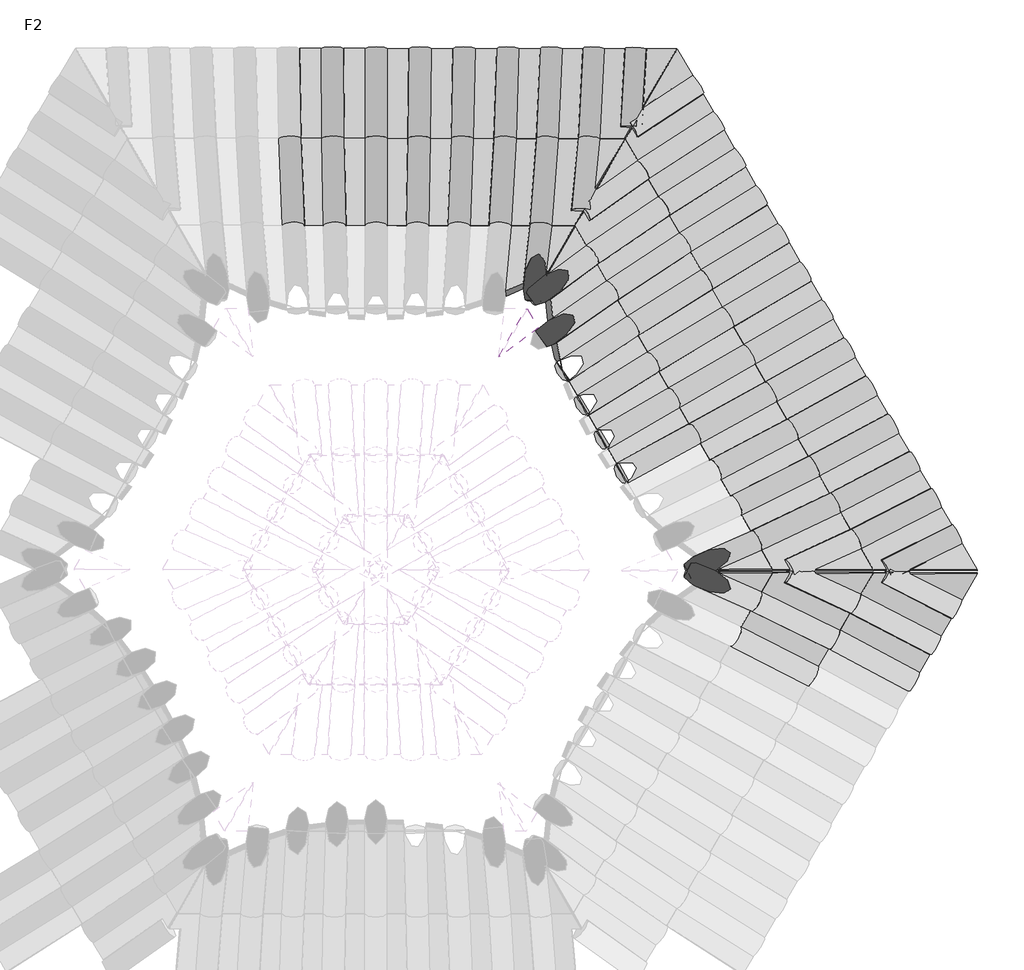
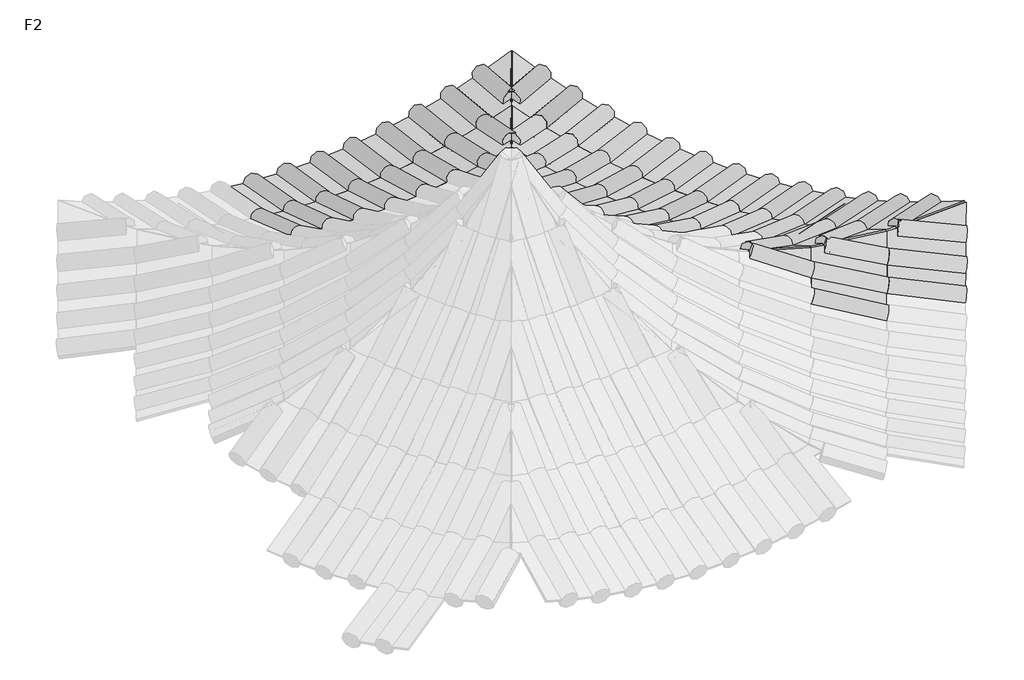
# One storey, part 6 of 6: 60 plates, 55 members.
"""IFC4 building model written with IfcOpenShell, lengths in millimetres."""

from ifc_helpers import new_model, si_unit, origin, place, context, project, spatial, transform, mapped, element, save
from components import member_7626b7be, member_3b22838b, member_1e72f84d, member_02d8162e, member_7e32749a, member_c71233b3, member_f4842659, member_5ab32efa, member_9361b17f, member_fd7b3f03, member_f726278f, member_74f9c3dd, member_f9a0b85f, member_28539939, member_3c0b60bf, plate_0ebb438e, plate_6b57b127, plate_d3f52e52, plate_d213f6b1, plate_9638d80c, plate_89c366d1, plate_aaafe28a, plate_ecf98e0f, plate_823a82dc, plate_c055fcc8, plate_38bc2d65, plate_a3322e93, plate_fe606144, plate_ecea87b7, plate_f94965ac, plate_2cce4260

model = new_model("IFC4")

# Units and contexts
model_context = context("Model", 3, world=origin())
ifc_project = project(units=[si_unit("LENGTHUNIT", "METRE", prefix="MILLI")], contexts=[model_context])

# Site, building, storey
site = spatial("IfcSite", under=ifc_project)
building = spatial("IfcBuilding", under=site)
storey = spatial("IfcBuildingStorey", under=building, Name="F2", Elevation=4000.0)

# Members
placement = place(None, origin())
member_shape = member_7626b7be(model_context)
element("IfcMember", 1, ObjectType="矩形竖梃 : 圆瓦", at=placement, inside=storey, context=model_context, shape_type="MappedRepresentation", body=[
    mapped(member_shape, transform((-10222.0041113, 1297.177642, 4853.1986775), x_axis=(-0.4666304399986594, 0.8097852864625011, -0.3556737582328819), y_axis=(-0.0364801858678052, 0.38417603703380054, 0.9225388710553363), z_axis=(0.8836997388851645, 0.4434597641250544, -0.1497271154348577))),
])
element("IfcMember", 2, ObjectType="矩形竖梃 : 圆瓦", at=placement, inside=storey, context=model_context, shape_type="MappedRepresentation", body=[
    mapped(member_shape, transform((-12993.1701785, 5493.6326513, 4853.1986775), x_axis=(-0.9346098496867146, 0.0007788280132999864, -0.3556737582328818), y_axis=(-0.3509463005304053, 0.1604952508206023, 0.9225388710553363), z_axis=(0.05780244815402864, 0.9870363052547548, -0.14972711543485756))),
])
member_2_shape = member_3b22838b(model_context)
element("IfcMember", 3, ObjectType="矩形竖梃 : 圆瓦", at=placement, inside=storey, context=model_context, shape_type="MappedRepresentation", body=[
    mapped(member_2_shape, transform((-10592.9879052, 29.0524342, 4625.0375895), x_axis=(0.4905424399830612, 0.8377000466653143, 0.24005571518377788), y_axis=(0.026098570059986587, -0.28947683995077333, 0.9568291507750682), z_axis=(0.8710263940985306, -0.46310019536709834, -0.16386344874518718))),
])
element("IfcMember", 4, ObjectType="矩形竖梃 : 圆瓦", at=placement, inside=storey, context=model_context, shape_type="MappedRepresentation", body=[
    mapped(member_2_shape, transform((-11342.8358581, 3242.2566154, 4440.4780088), x_axis=(-0.4992781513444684, 0.8664417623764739, 0.0), y_axis=(0.14625475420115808, 0.08427779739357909, 0.9856504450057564), z_axis=(0.8540087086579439, 0.49211373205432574, -0.16879928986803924))),
])
element("IfcMember", 5, ObjectType="矩形竖梃 : 圆瓦", at=placement, inside=storey, context=model_context, shape_type="MappedRepresentation", body=[
    mapped(member_2_shape, transform((-11533.7055485, 3573.4897576, 4452.0660929), x_axis=(-0.49836149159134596, 0.8648510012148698, 0.06056871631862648), y_axis=(0.17606145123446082, 0.03255158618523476, 0.9838408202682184), z_axis=(0.8489041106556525, 0.5009721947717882, -0.1684893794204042))),
])
element("IfcMember", 6, ObjectType="矩形竖梃 : 圆瓦", at=placement, inside=storey, context=model_context, shape_type="MappedRepresentation", body=[
    mapped(member_2_shape, transform((-11723.8743768, 3903.5066316, 4486.7877946), x_axis=(-0.4956148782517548, 0.8600845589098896, 0.12091502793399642), y_axis=(0.2057586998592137, -0.01898468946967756, 0.9784185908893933), z_axis=(0.8438182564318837, 0.5097981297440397, -0.1675607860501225))),
])
element("IfcMember", 7, ObjectType="矩形竖梃 : 圆瓦", at=placement, inside=storey, context=model_context, shape_type="MappedRepresentation", body=[
    mapped(member_2_shape, transform((-11912.6440545, 4231.095435, 4544.5156178), x_axis=(-0.49104839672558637, 0.8521599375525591, 0.1808173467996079), y_axis=(0.2352374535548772, -0.07014179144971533, 0.9694036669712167), z_axis=(0.8387698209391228, 0.5185591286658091, -0.16601691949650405))),
])
element("IfcMember", 8, ObjectType="矩形竖梃 : 圆瓦", at=placement, inside=storey, context=model_context, shape_type="MappedRepresentation", body=[
    mapped(member_2_shape, transform((-12099.3214305, 4555.0532815, 4625.0375895), x_axis=(-0.4846788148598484, 0.841106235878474, 0.2400557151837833), y_axis=(0.26438946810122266, -0.12073187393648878, 0.9568291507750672), z_axis=(0.8337773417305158, 0.5272230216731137, -0.16386344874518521))),
])
element("IfcMember", 9, ObjectType="矩形竖梃 : 圆瓦", at=placement, inside=storey, context=model_context, shape_type="MappedRepresentation", body=[
    mapped(member_2_shape, transform((-15238.0738553, 5495.5033719, 4440.4780088), x_axis=(-0.9999996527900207, 0.0008333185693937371, 0.0), y_axis=(0.00014066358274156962, 0.16879923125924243, 0.9856504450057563), z_axis=(0.0008213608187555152, 0.9856501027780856, -0.16879928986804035))),
])
element("IfcMember", 10, ObjectType="矩形竖梃 : 圆瓦", at=placement, inside=storey, context=model_context, shape_type="MappedRepresentation", body=[
    mapped(member_2_shape, transform((-15620.3650162, 5495.8219423, 4452.0660929), x_axis=(-0.9981636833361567, 0.0008317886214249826, 0.06056871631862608), y_axis=(0.059840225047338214, 0.16874948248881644, 0.9838408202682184), z_axis=(-0.009402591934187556, 0.9856586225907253, -0.16848937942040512))),
])
member_3_shape = member_1e72f84d(model_context)
element("IfcMember", 11, ObjectType="矩形竖梃 : 圆瓦", at=placement, inside=storey, context=model_context, shape_type="MappedRepresentation", body=[
    mapped(member_3_shape, transform((-10406.8634887, 346.8973741, 4728.0580377), x_axis=(0.4822945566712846, 0.8236151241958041, 0.2984126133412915), y_axis=(-0.0029670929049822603, -0.3391123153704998, 0.9407412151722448), z_axis=(0.8760040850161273, -0.45459978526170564, -0.16110828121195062))),
])
element("IfcMember", 12, ObjectType="矩形竖梃 : 圆瓦", at=placement, inside=storey, context=model_context, shape_type="MappedRepresentation", body=[
    mapped(member_3_shape, transform((-12283.2210368, 4874.1906171, 4728.0580377), x_axis=(-0.47652952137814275, 0.8269640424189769, 0.29841261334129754), y_axis=(0.29310769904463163, -0.17056917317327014, 0.9407412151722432), z_axis=(0.8288591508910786, 0.5357579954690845, -0.16110828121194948))),
])
member_4_shape = member_02d8162e(model_context)
element("IfcMember", 13, ObjectType="矩形竖梃 : 圆瓦", at=placement, inside=storey, context=model_context, shape_type="MappedRepresentation", body=[
    mapped(member_4_shape, transform((-11466.1401373, 79.1254543, 4675.6876498), x_axis=(0.49698908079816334, 0.8487089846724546, 0.18081734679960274), y_axis=(0.17203098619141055, -0.3006018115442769, 0.9381065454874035), z_axis=(0.8505334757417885, -0.4351225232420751, -0.295400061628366))),
])
element("IfcMember", 14, ObjectType="矩形竖梃 : 圆瓦", at=placement, inside=storey, context=model_context, shape_type="MappedRepresentation", body=[
    mapped(member_4_shape, transform((-12017.5987556, 2853.4314379, 4573.8484261), x_axis=(-0.49927815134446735, 0.8664417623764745, 0.0), y_axis=(0.26023650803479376, 0.14995861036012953, 0.9538287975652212), z_axis=(0.8264371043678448, 0.47622587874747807, -0.30035083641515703))),
])
element("IfcMember", 15, ObjectType="矩形竖梃 : 圆瓦", at=placement, inside=storey, context=model_context, shape_type="MappedRepresentation", body=[
    mapped(member_4_shape, transform((-12204.4352396, 3177.6653986, 4585.1916462), x_axis=(-0.4983614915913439, 0.8648510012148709, 0.06056871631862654), y_axis=(0.2890808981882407, 0.09990237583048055, 0.9520775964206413), z_axis=(0.8173543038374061, 0.4919880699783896, -0.2997994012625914))),
])
element("IfcMember", 16, ObjectType="矩形竖梃 : 圆瓦", at=placement, inside=storey, context=model_context, shape_type="MappedRepresentation", body=[
    mapped(member_4_shape, transform((-12390.5856713, 3500.7087916, 4619.1796547), x_axis=(-0.4956148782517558, 0.8600845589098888, 0.12091502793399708), y_axis=(0.3178193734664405, 0.050029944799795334, 0.9468304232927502), z_axis=(0.8083048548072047, 0.5076923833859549, -0.29814712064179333))),
])
element("IfcMember", 17, ObjectType="矩形竖梃 : 圆瓦", at=placement, inside=storey, context=model_context, shape_type="MappedRepresentation", body=[
    mapped(member_4_shape, transform((-12575.3665173, 3821.3754209, 4675.6876498), x_axis=(-0.49104839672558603, 0.8521599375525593, 0.18081734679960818), y_axis=(0.3463464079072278, 0.0005244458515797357, 0.938106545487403), z_axis=(0.7993219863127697, 0.5232811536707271, -0.2954000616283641))),
])
element("IfcMember", 18, ObjectType="矩形竖梃 : 圆瓦", at=placement, inside=storey, context=model_context, shape_type="MappedRepresentation", body=[
    mapped(member_4_shape, transform((-12670.5769857, 2477.1594508, 4811.1593559), x_axis=(-0.49927815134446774, 0.8664417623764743, 0.0), y_axis=(0.3694511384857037, 0.21289241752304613, 0.9045345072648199), z_axis=(0.7837264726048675, 0.45161431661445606, -0.426400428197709))),
])
element("IfcMember", 19, ObjectType="矩形竖梃 : 圆瓦", at=placement, inside=storey, context=model_context, shape_type="MappedRepresentation", body=[
    mapped(member_4_shape, transform((-12850.2370362, 2788.9395083, 4822.0668801), x_axis=(-0.4983614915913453, 0.86485100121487, 0.060568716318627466), y_axis=(0.39680483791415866, 0.16542311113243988, 0.9028738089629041), z_axis=(0.7708318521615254, 0.4739914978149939, -0.42561756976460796))),
])
element("IfcMember", 20, ObjectType="矩形竖梃 : 圆瓦", at=placement, inside=storey, context=model_context, shape_type="MappedRepresentation", body=[
    mapped(member_4_shape, transform((-13029.2373857, 3099.574728, 4854.7494012), x_axis=(-0.495614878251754, 0.8600845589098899, 0.12091502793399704), y_axis=(0.4240580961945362, 0.11812810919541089, 0.8978978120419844), z_axis=(0.757984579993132, 0.4962865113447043, -0.4232718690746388))),
])
element("IfcMember", 21, ObjectType="矩形竖梃 : 圆瓦", at=placement, inside=storey, context=model_context, shape_type="MappedRepresentation", body=[
    mapped(member_4_shape, transform((-15238.7228226, 4716.7289724, 4573.8484261), x_axis=(-0.9999996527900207, 0.0008333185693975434, 0.0), y_axis=(0.000250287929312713, 0.3003507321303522, 0.9538287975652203), z_axis=(0.0007948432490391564, 0.953828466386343, -0.3003508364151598))),
])
element("IfcMember", 22, ObjectType="矩形竖梃 : 圆瓦", at=placement, inside=storey, context=model_context, shape_type="MappedRepresentation", body=[
    mapped(member_4_shape, transform((-15612.9359114, 4717.0408112, 4585.1916462), x_axis=(-0.9981636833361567, 0.0008317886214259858, 0.060568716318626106), y_axis=(0.058022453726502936, 0.3003025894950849, 0.9520775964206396), z_axis=(-0.017397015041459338, 0.9538436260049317, -0.2997994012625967))),
])
element("IfcMember", 23, ObjectType="矩形竖梃 : 圆瓦", at=placement, inside=storey, context=model_context, shape_type="MappedRepresentation", body=[
    mapped(member_4_shape, transform((-15985.7749122, 4717.351505, 4619.1796547), x_axis=(-0.9926625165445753, 0.0008272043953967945, 0.12091502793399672), y_axis=(0.11558248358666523, 0.30025462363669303, 0.946830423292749), z_axis=(-0.035522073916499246, 0.9538587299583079, -0.29814712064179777))),
])
member_5_shape = member_7e32749a(model_context)
element("IfcMember", 24, ObjectType="矩形竖梃 : 圆瓦", at=placement, inside=storey, context=model_context, shape_type="MappedRepresentation", body=[
    mapped(member_5_shape, transform((-11281.1966875, 394.9536557, 4754.5081374), x_axis=(0.49054243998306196, 0.8377000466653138, 0.2400557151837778), y_axis=(0.14347884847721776, -0.34936033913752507, 0.925937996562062), z_axis=(0.8595242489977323, -0.4197689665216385, -0.2915683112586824))),
])
element("IfcMember", 25, ObjectType="矩形竖梃 : 圆瓦", at=placement, inside=storey, context=model_context, shape_type="MappedRepresentation", body=[
    mapped(member_5_shape, transform((-12758.0992735, 4138.4878178, 4754.5081374), x_axis=(-0.4846788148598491, 0.8411062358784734, 0.24005571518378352), y_axis=(0.37455725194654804, -0.048432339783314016, 0.9259379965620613), z_axis=(0.7904386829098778, 0.5386971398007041, -0.29156831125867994))),
])
member_6_shape = member_c71233b3(model_context)
element("IfcMember", 26, ObjectType="矩形竖梃 : 圆瓦", at=placement, inside=storey, context=model_context, shape_type="MappedRepresentation", body=[
    mapped(member_6_shape, transform((-13206.9207556, 3407.9244762, 4909.0869108), x_axis=(-0.49104839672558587, 0.8521599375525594, 0.18081734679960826), y_axis=(0.451110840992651, 0.07118107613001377, 0.8896247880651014), z_axis=(0.7452318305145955, 0.5184174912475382, -0.41937193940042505))),
])
member_7_shape = member_f4842659(model_context)
element("IfcMember", 27, ObjectType="矩形竖梃 : 圆瓦", at=placement, inside=storey, context=model_context, shape_type="MappedRepresentation", body=[
    mapped(member_7_shape, transform((-11099.0052065, 706.0823159, 4855.3516935), x_axis=(0.48229455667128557, 0.8236151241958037, 0.2984126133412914), y_axis=(0.1051593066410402, -0.3926203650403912, 0.9136688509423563), z_axis=(0.8696743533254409, -0.4092766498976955, -0.27596946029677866))),
])
element("IfcMember", 28, ObjectType="矩形竖梃 : 圆瓦", at=placement, inside=storey, context=model_context, shape_type="MappedRepresentation", body=[
    mapped(member_7_shape, transform((-12938.112956, 4450.8815646, 4855.3516935), x_axis=(-0.4765295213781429, 0.8269640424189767, 0.298412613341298), y_axis=(0.3931530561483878, -0.103149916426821, 0.9136688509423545), z_axis=(0.7863525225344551, 0.5527120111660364, -0.2759694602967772))),
])
member_8_shape = member_5ab32efa(model_context)
element("IfcMember", 29, ObjectType="矩形竖梃 : 圆瓦", at=placement, inside=storey, context=model_context, shape_type="MappedRepresentation", body=[
    mapped(member_8_shape, transform((-11960.3174819, 726.6183346, 4984.8798848), x_axis=(0.4905424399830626, 0.8377000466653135, 0.24005571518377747), y_axis=(0.2501195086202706, -0.39923665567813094, 0.882071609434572), z_axis=(0.8347504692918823, -0.37265094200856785, -0.4053676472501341))),
])
element("IfcMember", 30, ObjectType="矩形竖梃 : 圆瓦", at=placement, inside=storey, context=model_context, shape_type="MappedRepresentation", body=[
    mapped(member_8_shape, transform((-13382.6347033, 3712.8565108, 4984.8798848), x_axis=(-0.48467881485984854, 0.8411062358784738, 0.24005571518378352), y_axis=(0.4707118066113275, 0.019495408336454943, 0.8820716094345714), z_axis=(0.737235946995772, 0.5405184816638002, -0.4053676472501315))),
])
member_9_shape = member_9361b17f(model_context)
element("IfcMember", 31, ObjectType="矩形竖梃 : 圆瓦", at=placement, inside=storey, context=model_context, shape_type="MappedRepresentation", body=[
    mapped(member_9_shape, transform((-10224.2338851, 658.7742169, 4853.1986775), x_axis=(0.4722757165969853, 0.806505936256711, 0.35567375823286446), y_axis=(-0.03916175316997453, -0.3839124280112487, 0.9225386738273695), z_axis=(0.8805804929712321, -0.44962142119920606, -0.14972833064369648))),
])
element("IfcMember", 32, ObjectType="矩形竖梃 : 圆瓦", at=placement, inside=storey, context=model_context, shape_type="MappedRepresentation", body=[
    mapped(member_9_shape, transform((-12463.667605, 5187.3355887, 4853.1986775), x_axis=(-0.4666304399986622, 0.8097852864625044, 0.3556737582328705), y_axis=(0.31409397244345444, -0.22420386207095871, 0.9225386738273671), z_axis=(0.8268016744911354, 0.5421996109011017, -0.1497283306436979))),
])
member_10_shape = member_fd7b3f03(model_context)
element("IfcMember", 33, ObjectType="矩形竖梃 : 圆瓦", at=placement, inside=storey, context=model_context, shape_type="MappedRepresentation", body=[
    mapped(member_10_shape, transform((-11097.0845551, 1255.9813112, 4855.3516935), x_axis=(-0.47652952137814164, 0.8269640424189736, -0.29841261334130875), y_axis=(0.10789811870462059, 0.39187564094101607, 0.9136692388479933), z_axis=(0.8725122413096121, 0.4031922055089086, -0.27596817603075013))),
])
element("IfcMember", 34, ObjectType="矩形竖梃 : 圆瓦", at=placement, inside=storey, context=model_context, shape_type="MappedRepresentation", body=[
    mapped(member_10_shape, transform((-13395.0333314, 4715.1925912, 4855.3516935), x_axis=(-0.9544366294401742, 0.0007953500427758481, -0.29841261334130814), y_axis=(-0.2854252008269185, 0.28938033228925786, 0.9136692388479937), z_axis=(0.08708142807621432, 0.957213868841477, -0.27596817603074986))),
])
member_11_shape = member_f726278f(model_context)
element("IfcMember", 35, ObjectType="矩形竖梃 : 圆瓦", at=placement, inside=storey, context=model_context, shape_type="MappedRepresentation", body=[
    mapped(member_11_shape, transform((-10402.4506794, 1610.3226136, 4728.0580377), x_axis=(-0.4765295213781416, 0.8269640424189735, -0.2984126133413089), y_axis=(-0.0005981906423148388, 0.3391247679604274, 0.9407412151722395), z_axis=(0.8791582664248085, 0.44846946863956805, -0.1611082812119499))),
])
element("IfcMember", 36, ObjectType="矩形竖梃 : 圆瓦", at=placement, inside=storey, context=model_context, shape_type="MappedRepresentation", body=[
    mapped(member_11_shape, transform((-13354.5849631, 5493.933825, 4728.0580377), x_axis=(-0.9544366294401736, 0.0007953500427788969, -0.2984126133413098), y_axis=(-0.2939897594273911, 0.1690443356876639, 0.9407412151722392), z_axis=(0.05119318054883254, 0.9856081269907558, -0.16110828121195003))),
])
member_12_shape = member_74f9c3dd(model_context)
element("IfcMember", 37, ObjectType="矩形竖梃 : 圆瓦", at=placement, inside=storey, context=model_context, shape_type="MappedRepresentation", body=[
    mapped(member_12_shape, transform((-11277.0982377, 1568.3750579, 4754.5081374), x_axis=(-0.48467881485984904, 0.8411062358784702, -0.24005571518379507), y_axis=(0.14591576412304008, 0.34834956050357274, 0.9259379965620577), z_axis=(0.8624355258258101, 0.41375461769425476, -0.2915683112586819))),
])
element("IfcMember", 38, ObjectType="矩形竖梃 : 圆瓦", at=placement, inside=storey, context=model_context, shape_type="MappedRepresentation", body=[
    mapped(member_12_shape, transform((-13755.5810934, 4715.4930424, 4754.5081374), x_axis=(-0.9707587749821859, 0.0008089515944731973, -0.24005571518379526), y_axis=(-0.2287216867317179, 0.30054153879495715, 0.9259379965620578), z_axis=(0.07289575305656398, 0.9537683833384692, -0.2915683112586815))),
])
member_13_shape = member_f9a0b85f(model_context)
element("IfcMember", 39, ObjectType="矩形竖梃 : 圆瓦", at=placement, inside=storey, context=model_context, shape_type="MappedRepresentation", body=[
    mapped(member_13_shape, transform((-11958.5192682, 1241.4623908, 4984.8798848), x_axis=(-0.48467881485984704, 0.8411062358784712, -0.24005571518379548), y_axis=(0.2529006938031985, 0.39747906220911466, 0.882072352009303), z_axis=(0.8373336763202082, 0.36681152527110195, -0.40536603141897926))),
])
element("IfcMember", 40, ObjectType="矩形竖梃 : 圆瓦", at=placement, inside=storey, context=model_context, shape_type="MappedRepresentation", body=[
    mapped(member_13_shape, transform((-13813.1769341, 3961.9087858, 4984.8798848), x_axis=(-0.9707587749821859, 0.0008089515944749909, -0.24005571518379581), y_axis=(-0.21777661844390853, 0.41775795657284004, 0.8820723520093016), z_axis=(0.10099873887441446, 0.9085579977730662, -0.40536603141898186))),
])
member_14_shape = member_28539939(model_context)
element("IfcMember", 41, ObjectType="矩形竖梃 : 圆瓦", at=placement, inside=storey, context=model_context, shape_type="MappedRepresentation", body=[
    mapped(member_14_shape, transform((-10586.3502857, 1929.4599492, 4625.0375895), x_axis=(-0.4846788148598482, 0.8411062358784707, -0.2400557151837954), y_axis=(0.028120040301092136, 0.2892874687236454, 0.9568291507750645), z_axis=(0.8742400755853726, 0.4570044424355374, -0.16386344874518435))),
])
element("IfcMember", 42, ObjectType="矩形竖梃 : 圆瓦", at=placement, inside=storey, context=model_context, shape_type="MappedRepresentation", body=[
    mapped(member_14_shape, transform((-10773.0276618, 2253.4177957, 4544.5156178), x_axis=(-0.4910483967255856, 0.8521599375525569, -0.18081734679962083), y_axis=(0.057272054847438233, 0.23869738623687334, 0.9694036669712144), z_axis=(0.8692475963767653, 0.4656683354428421, -0.16601691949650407))),
])
element("IfcMember", 43, ObjectType="矩形竖梃 : 圆瓦", at=placement, inside=storey, context=model_context, shape_type="MappedRepresentation", body=[
    mapped(member_14_shape, transform((-10961.7973394, 2581.0065991, 4486.7877946), x_axis=(-0.4956148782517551, 0.8600845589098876, -0.12091502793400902), y_axis=(0.08675080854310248, 0.1875402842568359, 0.9784185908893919), z_axis=(0.8641991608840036, 0.4744293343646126, -0.16756078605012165))),
])
element("IfcMember", 44, ObjectType="矩形竖梃 : 圆瓦", at=placement, inside=storey, context=model_context, shape_type="MappedRepresentation", body=[
    mapped(member_14_shape, transform((-11151.9661677, 2911.0234731, 4452.0660929), x_axis=(-0.4983614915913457, 0.864851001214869, -0.060568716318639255), y_axis=(0.1164480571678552, 0.13600400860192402, 0.9838408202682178), z_axis=(0.8591133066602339, 0.4832552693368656, -0.1684893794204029))),
])
element("IfcMember", 45, ObjectType="矩形竖梃 : 圆瓦", at=placement, inside=storey, context=model_context, shape_type="MappedRepresentation", body=[
    mapped(member_14_shape, transform((-13722.9158062, 5494.2407621, 4625.0375895), x_axis=(-0.9707587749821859, 0.0008089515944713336, -0.24005571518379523), y_axis=(-0.23647027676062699, 0.16899640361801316, 0.956829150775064), z_axis=(0.04134258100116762, 0.9856163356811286, -0.16386344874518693))),
])
element("IfcMember", 46, ObjectType="矩形竖梃 : 圆瓦", at=placement, inside=storey, context=model_context, shape_type="MappedRepresentation", body=[
    mapped(member_14_shape, transform((-14096.810219, 5494.5523354, 4544.5156178), x_axis=(-0.9835163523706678, 0.000819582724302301, -0.18081734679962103), y_axis=(-0.17808197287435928, 0.1689477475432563, 0.9694036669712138), z_axis=(0.03134318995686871, 0.9856246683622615, -0.1660169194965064))),
])
element("IfcMember", 47, ObjectType="矩形竖梃 : 圆瓦", at=placement, inside=storey, context=model_context, shape_type="MappedRepresentation", body=[
    mapped(member_14_shape, transform((-14474.8952836, 5494.8674008, 4486.7877946), x_axis=(-0.9926625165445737, 0.0008272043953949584, -0.12091502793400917), y_axis=(-0.11903924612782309, 0.1688985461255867, 0.9784185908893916), z_axis=(0.021231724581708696, 0.9856330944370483, -0.16756078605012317))),
])
element("IfcMember", 48, ObjectType="矩形竖梃 : 圆瓦", at=placement, inside=storey, context=model_context, shape_type="MappedRepresentation", body=[
    mapped(member_14_shape, transform((-14855.7826943, 5495.1848014, 4452.0660929), x_axis=(-0.9981636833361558, 0.000831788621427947, -0.06056871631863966), y_axis=(-0.05955889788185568, 0.16884898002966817, 0.9838408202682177), z_axis=(0.011045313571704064, 0.9856415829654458, -0.16848937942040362))),
])
member_15_shape = member_3c0b60bf(model_context)
element("IfcMember", 49, ObjectType="矩形竖梃 : 圆瓦", at=placement, inside=storey, context=model_context, shape_type="MappedRepresentation", body=[
    mapped(member_15_shape, transform((-11459.8309939, 1885.4874548, 4675.6876498), x_axis=(-0.49104839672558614, 0.8521599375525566, -0.18081734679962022), y_axis=(0.1741266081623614, 0.2993927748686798, 0.9381065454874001), z_axis=(0.8535522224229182, 0.4291706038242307, -0.29540006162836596))),
])
element("IfcMember", 50, ObjectType="矩形竖梃 : 圆瓦", at=placement, inside=storey, context=model_context, shape_type="MappedRepresentation", body=[
    mapped(member_15_shape, transform((-11644.6118399, 2206.1540841, 4619.1796547), x_axis=(-0.49561487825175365, 0.8600845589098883, -0.12091502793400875), y_axis=(0.20265364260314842, 0.24988727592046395, 0.9468304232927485), z_axis=(0.8445693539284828, 0.4447593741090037, -0.2981471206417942))),
])
element("IfcMember", 51, ObjectType="矩形竖梃 : 圆瓦", at=placement, inside=storey, context=model_context, shape_type="MappedRepresentation", body=[
    mapped(member_15_shape, transform((-11830.7622715, 2529.1974771, 4585.1916462), x_axis=(-0.49836149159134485, 0.8648510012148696, -0.06056871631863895), y_axis=(0.2313921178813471, 0.2000148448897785, 0.9520775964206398), z_axis=(0.8355199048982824, 0.4604636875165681, -0.2997994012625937))),
])
element("IfcMember", 52, ObjectType="矩形竖梃 : 圆瓦", at=placement, inside=storey, context=model_context, shape_type="MappedRepresentation", body=[
    mapped(member_15_shape, transform((-12490.9169353, 2165.3793933, 4822.0668801), x_axis=(-0.4983614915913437, 0.8648510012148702, -0.06056871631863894), y_axis=(0.3420974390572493, 0.2603617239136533, 0.9028738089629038), z_axis=(0.7966210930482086, 0.42923713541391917, -0.42561756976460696))),
])
element("IfcMember", 53, ObjectType="矩形竖梃 : 圆瓦", at=placement, inside=storey, context=model_context, shape_type="MappedRepresentation", body=[
    mapped(member_15_shape, transform((-14121.574863, 4715.7980319, 4675.6876498), x_axis=(-0.9835163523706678, 0.0008195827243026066, -0.18081734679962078), y_axis=(-0.1722184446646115, 0.3004944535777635, 0.9381065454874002), z_axis=(0.055103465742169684, 0.9537832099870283, -0.2954000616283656))),
])
element("IfcMember", 54, ObjectType="矩形竖梃 : 圆瓦", at=placement, inside=storey, context=model_context, shape_type="MappedRepresentation", body=[
    mapped(member_15_shape, transform((-14491.6707331, 4716.1064398, 4619.1796547), x_axis=(-0.9926625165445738, 0.000827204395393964, -0.12091502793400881), y_axis=(-0.11508190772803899, 0.3004468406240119, 0.9468304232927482), z_axis=(0.03711176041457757, 0.9537982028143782, -0.2981471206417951))),
])
element("IfcMember", 55, ObjectType="矩形竖梃 : 圆瓦", at=placement, inside=storey, context=model_context, shape_type="MappedRepresentation", body=[
    mapped(member_15_shape, transform((-14864.5097339, 4716.4171336, 4585.1916462), x_axis=(-0.9981636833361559, 0.0008317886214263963, -0.06056871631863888), y_axis=(-0.057521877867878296, 0.30039887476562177, 0.9520775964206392), z_axis=(0.01898670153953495, 0.953813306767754, -0.29979940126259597))),
])

# Plates
plate_shape = plate_0ebb438e(model_context)
element("IfcPlate", 56, ObjectType="空系统嵌板 : 空", at=placement, inside=storey, context=model_context, shape_type="MappedRepresentation", body=[
    mapped(plate_shape, transform((-10289.4256736, 1414.180273, 4806.441471), x_axis=(-0.4717965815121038, 0.8187505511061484, -0.3271933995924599), y_axis=(0.0148289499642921, -0.3636698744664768, -0.9314098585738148), z_axis=(-0.8815827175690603, -0.4442879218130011, 0.15943699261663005))),
])
element("IfcPlate", 57, ObjectType="空系统嵌板 : 空", at=placement, inside=storey, context=model_context, shape_type="MappedRepresentation", body=[
    mapped(plate_shape, transform((-13128.2082104, 5493.745181, 4806.441471), x_axis=(-0.9449570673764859, 0.0007874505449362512, -0.3271933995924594), y_axis=(0.32236182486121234, -0.168992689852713, -0.931409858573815), z_axis=(-0.05602673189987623, -0.9856169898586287, 0.1594369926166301))),
])
plate_2_shape = plate_6b57b127(model_context)
element("IfcPlate", 58, ObjectType="空系统嵌板 : 空", at=placement, inside=storey, context=model_context, shape_type="MappedRepresentation", body=[
    mapped(plate_2_shape, transform((-10499.925697, 187.9749042, 4676.5478136), x_axis=(0.4866419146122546, 0.8310391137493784, 0.2693578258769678), y_axis=(-0.011437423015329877, 0.3143647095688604, -0.9492333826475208), z_axis=(-0.873526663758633, 0.45885599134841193, 0.16248799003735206))),
])
element("IfcPlate", 59, ObjectType="空系统嵌板 : 空", at=placement, inside=storey, context=model_context, shape_type="MappedRepresentation", body=[
    mapped(plate_2_shape, transform((-10494.4004826, 1769.8912814, 4676.5478136), x_axis=(-0.48082491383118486, 0.8344182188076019, -0.2693578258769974), y_axis=(-0.013633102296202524, -0.31427714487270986, -0.9492333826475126), z_axis=(-0.8767106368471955, -0.45274287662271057, 0.16248799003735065))),
])
element("IfcPlate", 60, ObjectType="空系统嵌板 : 空", at=placement, inside=storey, context=model_context, shape_type="MappedRepresentation", body=[
    mapped(plate_2_shape, transform((-10679.6889737, 2091.4388724, 4584.7766036), x_axis=(-0.4880876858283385, 0.8470219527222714, -0.21053318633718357), y_axis=(-0.04258189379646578, -0.264039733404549, -0.963571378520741), z_axis=(-0.8717552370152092, -0.46134242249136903, 0.16494234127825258))),
])
element("IfcPlate", 61, ObjectType="空系统嵌板 : 空", at=placement, inside=storey, context=model_context, shape_type="MappedRepresentation", body=[
    mapped(plate_2_shape, transform((-10867.4125006, 2417.2121974, 4515.6517062), x_axis=(-0.49355822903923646, 0.8565154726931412, -0.15093548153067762), y_axis=(-0.07191112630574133, -0.21314210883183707, -0.9743711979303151), z_axis=(-0.8667347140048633, -0.4700549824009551, 0.1667910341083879))),
])
element("IfcPlate", 62, ObjectType="空系统嵌板 : 空", at=placement, inside=storey, context=model_context, shape_type="MappedRepresentation", body=[
    mapped(plate_2_shape, transform((-11056.8817536, 2746.0150361, 4469.4269438), x_axis=(-0.4972164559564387, 0.8628639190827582, -0.09078355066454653), y_axis=(-0.10151310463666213, -0.16177116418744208, -0.981593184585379), z_axis=(-0.8616675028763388, -0.4788485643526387, 0.1680272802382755))),
])
element("IfcPlate", 63, ObjectType="空系统嵌板 : 空", at=placement, inside=storey, context=model_context, shape_type="MappedRepresentation", body=[
    mapped(plate_2_shape, transform((-11247.4010129, 3076.6400442, 4446.2720508), x_axis=(-0.4990489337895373, 0.866043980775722, -0.030298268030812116), y_axis=(-0.13127913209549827, -0.1101155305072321, -0.9852108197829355), z_axis=(-0.856572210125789, -0.4876908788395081, 0.16864654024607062))),
])
element("IfcPlate", 64, ObjectType="空系统嵌板 : 空", at=placement, inside=storey, context=model_context, shape_type="MappedRepresentation", body=[
    mapped(plate_2_shape, transform((-11438.2707033, 3407.8731865, 4446.2720508), x_axis=(-0.4990489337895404, 0.8660439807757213, 0.03029826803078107), y_axis=(-0.16109990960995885, -0.05836488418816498, -0.9852108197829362), z_axis=(-0.8514675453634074, -0.4965494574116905, 0.16864654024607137))),
])
element("IfcPlate", 65, ObjectType="空系统嵌板 : 空", at=placement, inside=storey, context=model_context, shape_type="MappedRepresentation", body=[
    mapped(plate_2_shape, transform((-11628.7899627, 3738.4981946, 4469.4269438), x_axis=(-0.4972164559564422, 0.8628639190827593, 0.09078355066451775), y_axis=(-0.19086593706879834, -0.006709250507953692, -0.9815931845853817), z_axis=(-0.8463722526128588, -0.5053917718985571, 0.16802728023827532))),
])
element("IfcPlate", 66, ObjectType="空系统嵌板 : 空", at=placement, inside=storey, context=model_context, shape_type="MappedRepresentation", body=[
    mapped(plate_2_shape, transform((-11818.2592157, 4067.3010333, 4515.6517062), x_axis=(-0.49355822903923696, 0.856515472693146, 0.15093548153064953), y_axis=(-0.22046791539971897, 0.044661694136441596, -0.9743711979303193), z_axis=(-0.8413050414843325, -0.5141853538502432, 0.16679103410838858))),
])
element("IfcPlate", 67, ObjectType="空系统嵌板 : 空", at=placement, inside=storey, context=model_context, shape_type="MappedRepresentation", body=[
    mapped(plate_2_shape, transform((-12005.9827425, 4393.0743583, 4584.7766036), x_axis=(-0.48808768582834, 0.8470219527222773, 0.21053318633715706), y_axis=(-0.2497971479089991, 0.09555931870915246, -0.9635713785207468), z_axis=(-0.8362845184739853, -0.5228979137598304, 0.1649423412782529))),
])
element("IfcPlate", 68, ObjectType="空系统嵌板 : 空", at=placement, inside=storey, context=model_context, shape_type="MappedRepresentation", body=[
    mapped(plate_2_shape, transform((-12191.2712337, 4714.6219493, 4676.5478136), x_axis=(-0.4808249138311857, 0.8344182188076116, 0.26935782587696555), y_axis=(-0.2787459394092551, 0.14579673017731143, -0.9492333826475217), z_axis=(-0.8313291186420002, -0.5314974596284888, 0.16248799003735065))),
])
element("IfcPlate", 69, ObjectType="空系统嵌板 : 空", at=placement, inside=storey, context=model_context, shape_type="MappedRepresentation", body=[
    mapped(plate_2_shape, transform((-13538.7503846, 5494.0872936, 4676.5478136), x_axis=(-0.9630398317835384, 0.0008025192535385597, -0.26935782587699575), y_axis=(0.265355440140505, -0.16894518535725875, -0.9492333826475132), z_axis=(-0.04626848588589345, -0.98562512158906, 0.16248799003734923))),
])
element("IfcPlate", 70, ObjectType="空系统嵌板 : 空", at=placement, inside=storey, context=model_context, shape_type="MappedRepresentation", body=[
    mapped(plate_2_shape, transform((-13909.8630126, 5494.3965487, 4584.7766036), x_axis=(-0.9775863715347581, 0.0008146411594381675, -0.21053318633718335), y_axis=(0.20737416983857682, -0.16889686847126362, -0.9635713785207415), z_axis=(-0.03634336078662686, -0.9856333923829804, 0.16494234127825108))),
])
element("IfcPlate", 71, ObjectType="空系统嵌板 : 空", at=placement, inside=storey, context=model_context, shape_type="MappedRepresentation", body=[
    mapped(plate_2_shape, transform((-14285.8527513, 5494.7098681, 4515.6517062), x_axis=(-0.9885432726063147, 0.0008237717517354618, -0.15093548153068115), y_axis=(0.14863091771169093, -0.16884791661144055, -0.9743711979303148), z_axis=(-0.02628780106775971, -0.9856417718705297, 0.16679103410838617))),
])
element("IfcPlate", 72, ObjectType="空系统嵌板 : 空", at=placement, inside=storey, context=model_context, shape_type="MappedRepresentation", body=[
    mapped(plate_2_shape, transform((-14665.3389889, 5495.0261011, 4469.4269438), x_axis=(-0.9958703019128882, 0.0008298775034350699, -0.09078355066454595), y_axis=(0.08934138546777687, -0.16879850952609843, -0.981593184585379), z_axis=(-0.016138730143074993, -0.9856502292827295, 0.16802728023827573))),
])
element("IfcPlate", 73, ObjectType="空系统嵌板 : 空", at=placement, inside=storey, context=model_context, shape_type="MappedRepresentation", body=[
    mapped(plate_2_shape, transform((-15046.9282748, 5495.3440866, 4446.2720508), x_axis=(-0.9995405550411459, 0.0008329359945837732, -0.030298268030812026), y_axis=(0.02972328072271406, -0.16874882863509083, -0.9852108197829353), z_axis=(-0.005933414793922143, -0.9856587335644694, 0.16864654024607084))),
])
element("IfcPlate", 74, ObjectType="空系统嵌板 : 空", at=placement, inside=storey, context=model_context, shape_type="MappedRepresentation", body=[
    mapped(plate_2_shape, transform((-15429.2194357, 5495.6626571, 4446.2720508), x_axis=(-0.9995405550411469, 0.0008329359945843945, 0.030298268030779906), y_axis=(-0.03000448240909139, -0.16869905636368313, -0.9852108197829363), z_axis=(0.004290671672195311, -0.985667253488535, 0.16864654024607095))),
])
element("IfcPlate", 75, ObjectType="空系统嵌板 : 空", at=placement, inside=storey, context=model_context, shape_type="MappedRepresentation", body=[
    mapped(plate_2_shape, transform((-15810.8087216, 5495.9806426, 4469.4269438), x_axis=(-0.9958703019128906, 0.0008298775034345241, 0.09078355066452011), y_axis=(-0.08962258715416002, -0.16864937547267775, -0.9815931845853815), z_axis=(0.014495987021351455, -0.9856757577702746, 0.16802728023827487))),
])
plate_3_shape = plate_d3f52e52(model_context)
element("IfcPlate", 76, ObjectType="空系统嵌板 : 空", at=placement, inside=storey, context=model_context, shape_type="MappedRepresentation", body=[
    mapped(plate_3_shape, transform((-10997.16437, 1083.3635671, 4924.281917), x_axis=(-0.47179658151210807, 0.8187505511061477, -0.32719339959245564), y_axis=(-0.10430338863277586, -0.42031193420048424, -0.9013648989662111), z_axis=(-0.8755162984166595, -0.3911334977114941, 0.2837001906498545))),
])
element("IfcPlate", 77, ObjectType="空系统嵌板 : 空", at=placement, inside=storey, context=model_context, shape_type="MappedRepresentation", body=[
    mapped(plate_3_shape, transform((-13195.5818874, 4715.4171378, 4924.281917), x_axis=(-0.9449570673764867, 0.0007874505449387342, -0.32719339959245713), y_axis=(0.3118491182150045, -0.30048535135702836, -0.9013648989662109), z_axis=(-0.09902660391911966, -0.9537861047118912, 0.2837001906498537))),
])
plate_4_shape = plate_d213f6b1(model_context)
element("IfcPlate", 78, ObjectType="空系统嵌板 : 空", at=placement, inside=storey, context=model_context, shape_type="MappedRepresentation", body=[
    mapped(plate_4_shape, transform((-11164.42536, 1372.8437965, 4817.6274153), x_axis=(-0.4808249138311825, 0.8344182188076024, -0.2693578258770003), y_axis=(-0.13184732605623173, -0.3725124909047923, -0.9186134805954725), z_axis=(-0.8668469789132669, -0.40617813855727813, 0.28912909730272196))),
])
element("IfcPlate", 79, ObjectType="空系统嵌板 : 空", at=placement, inside=storey, context=model_context, shape_type="MappedRepresentation", body=[
    mapped(plate_4_shape, transform((-13529.9096149, 4715.3049861, 4817.6274153), x_axis=(-0.9630398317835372, 0.0008025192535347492, -0.2693578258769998), y_axis=(0.25668161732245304, -0.3004393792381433, -0.9186134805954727), z_axis=(-0.08166290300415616, -0.9538005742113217, 0.28912909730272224))),
])
plate_5_shape = plate_9638d80c(model_context)
element("IfcPlate", 80, ObjectType="空系统嵌板 : 空", at=placement, inside=storey, context=model_context, shape_type="MappedRepresentation", body=[
    mapped(plate_5_shape, transform((-11373.6684124, 237.039555, 4715.0978936), x_axis=(0.4939925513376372, 0.8435918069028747, 0.21053318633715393), y_axis=(-0.15759586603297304, 0.3250044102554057, -0.9324889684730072), z_axis=(-0.8550642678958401, 0.42746344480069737, 0.29349633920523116))),
])
element("IfcPlate", 81, ObjectType="空系统嵌板 : 空", at=placement, inside=storey, context=model_context, shape_type="MappedRepresentation", body=[
    mapped(plate_5_shape, transform((-11368.4646158, 1726.9312564, 4715.0978936), x_axis=(-0.48808768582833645, 0.847021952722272, -0.21053318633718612), y_axis=(-0.15986230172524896, -0.3238956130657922, -0.9324889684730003), z_axis=(-0.8580294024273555, -0.42148006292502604, 0.2934963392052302))),
])
element("IfcPlate", 82, ObjectType="空系统嵌板 : 空", at=placement, inside=storey, context=model_context, shape_type="MappedRepresentation", body=[
    mapped(plate_5_shape, transform((-11552.2214169, 2045.8207695, 4647.4336523), x_axis=(-0.49355822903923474, 0.8565154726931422, -0.15093548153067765), y_axis=(-0.18824544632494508, -0.27463981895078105, -0.9429404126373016), z_axis=(-0.8490959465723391, -0.43698308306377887, 0.29678588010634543))),
])
element("IfcPlate", 83, ObjectType="空系统嵌板 : 空", at=placement, inside=storey, context=model_context, shape_type="MappedRepresentation", body=[
    mapped(plate_5_shape, transform((-11737.6870557, 2367.6757806, 4602.1856505), x_axis=(-0.49721645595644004, 0.8628639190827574, -0.09078355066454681), y_axis=(-0.21689253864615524, -0.22492597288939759, -0.9499294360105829), z_axis=(-0.840079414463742, -0.4526302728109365, 0.2989856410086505))),
])
element("IfcPlate", 84, ObjectType="空系统嵌板 : 空", at=placement, inside=storey, context=model_context, shape_type="MappedRepresentation", body=[
    mapped(plate_5_shape, transform((-11924.1805136, 2691.3144575, 4579.5200362), x_axis=(-0.499048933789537, 0.8660439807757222, -0.03029826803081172), y_axis=(-0.245698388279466, -0.1749366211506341, -0.9534303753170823), z_axis=(-0.8310129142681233, -0.46836417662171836, 0.3000875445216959))),
])
element("IfcPlate", 85, ObjectType="空系统嵌板 : 空", at=placement, inside=storey, context=model_context, shape_type="MappedRepresentation", body=[
    mapped(plate_5_shape, transform((-12111.0169976, 3015.5484182, 4579.5200362), x_axis=(-0.4990489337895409, 0.8660439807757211, 0.030298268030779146), y_axis=(-0.2745572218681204, -0.12485532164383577, -0.9534303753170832), z_axis=(-0.8219297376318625, -0.48412702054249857, 0.30008754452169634))),
])
element("IfcPlate", 86, ObjectType="空系统嵌板 : 空", at=placement, inside=storey, context=model_context, shape_type="MappedRepresentation", body=[
    mapped(plate_5_shape, transform((-12297.5104555, 3339.1870951, 4602.1856505), x_axis=(-0.49721645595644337, 0.8628639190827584, 0.09078355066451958), y_axis=(-0.3033630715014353, -0.0748659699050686, -0.9499294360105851), z_axis=(-0.8128632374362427, -0.499860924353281, 0.2989856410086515))),
])
element("IfcPlate", 87, ObjectType="空系统嵌板 : 空", at=placement, inside=storey, context=model_context, shape_type="MappedRepresentation", body=[
    mapped(plate_5_shape, transform((-12482.9760943, 3661.0421063, 4647.4336523), x_axis=(-0.49355822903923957, 0.8565154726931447, 0.15093548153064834), y_axis=(-0.3320101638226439, -0.025152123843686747, -0.9429404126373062), z_axis=(-0.8038467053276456, -0.5155081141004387, 0.2967858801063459))),
])
element("IfcPlate", 88, ObjectType="空系统嵌板 : 空", at=placement, inside=storey, context=model_context, shape_type="MappedRepresentation", body=[
    mapped(plate_5_shape, transform((-12666.7328954, 3979.9316194, 4715.0978936), x_axis=(-0.4880876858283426, 0.8470219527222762, 0.21053318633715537), y_axis=(-0.3603933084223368, 0.02410367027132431, -0.9324889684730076), z_axis=(-0.79491324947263, -0.5310111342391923, 0.2934963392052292))),
])
element("IfcPlate", 89, ObjectType="空系统嵌板 : 空", at=placement, inside=storey, context=model_context, shape_type="MappedRepresentation", body=[
    mapped(plate_5_shape, transform((-13938.5779782, 4715.6455372, 4715.0978936), x_axis=(-0.977586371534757, 0.0008146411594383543, -0.21053318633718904), y_axis=(0.20057067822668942, -0.3003926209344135, -0.9324889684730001), z_axis=(-0.06400225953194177, -0.9538152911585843, 0.293496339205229))),
])
element("IfcPlate", 90, ObjectType="空系统嵌板 : 空", at=placement, inside=storey, context=model_context, shape_type="MappedRepresentation", body=[
    mapped(plate_5_shape, transform((-14306.6227981, 4715.9522358, 4647.4336523), x_axis=(-0.9885432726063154, 0.0008237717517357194, -0.15093548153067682), y_axis=(0.1437223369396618, -0.3003452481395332, -0.9429404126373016), z_axis=(-0.0461095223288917, -0.9538302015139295, 0.2967858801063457))),
])
element("IfcPlate", 91, ObjectType="空系统嵌板 : 空", at=placement, inside=storey, context=model_context, shape_type="MappedRepresentation", body=[
    mapped(plate_5_shape, transform((-14678.0902335, 4716.2617867, 4602.1856505), x_axis=(-0.995870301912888, 0.0008298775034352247, -0.09078355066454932), y_axis=(0.08634533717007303, -0.30029743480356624, -0.949929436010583), z_axis=(-0.028050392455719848, -0.9538452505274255, 0.2989856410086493))),
])
element("IfcPlate", 92, ObjectType="空系统嵌板 : 空", at=placement, inside=storey, context=model_context, shape_type="MappedRepresentation", body=[
    mapped(plate_5_shape, transform((-15051.6162782, 4716.573053, 4579.5200362), x_axis=(-0.9995405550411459, 0.0008329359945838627, -0.030298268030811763), y_axis=(0.028650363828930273, -0.300249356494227, -0.9534303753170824), z_axis=(-0.009891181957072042, -0.9538603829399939, 0.3000875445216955))),
])
element("IfcPlate", 93, ObjectType="空系统嵌板 : 空", at=placement, inside=storey, context=model_context, shape_type="MappedRepresentation", body=[
    mapped(plate_5_shape, transform((-15425.829367, 4716.8848918, 4579.5200362), x_axis=(-0.9995405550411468, 0.0008329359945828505, 0.030298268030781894), y_axis=(-0.029150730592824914, -0.30020118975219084, -0.953430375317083), z_axis=(0.008301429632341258, -0.9538755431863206, 0.3000875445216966))),
])
element("IfcPlate", 94, ObjectType="空系统嵌板 : 空", at=placement, inside=storey, context=model_context, shape_type="MappedRepresentation", body=[
    mapped(plate_5_shape, transform((-15799.3554118, 4717.1961581, 4602.1856505), x_axis=(-0.9958703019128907, 0.0008298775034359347, 0.09078355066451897), y_axis=(-0.0868457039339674, -0.30015311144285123, -0.9499294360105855), z_axis=(0.026460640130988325, -0.953890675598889, 0.29898564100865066))),
])
plate_6_shape = plate_89c366d1(model_context)
element("IfcPlate", 95, ObjectType="空系统嵌板 : 空", at=placement, inside=storey, context=model_context, shape_type="MappedRepresentation", body=[
    mapped(plate_6_shape, transform((-11862.3327725, 1075.7464767, 5038.1770919), x_axis=(-0.4808249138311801, 0.834418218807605, -0.2693578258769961), y_axis=(-0.24765634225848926, -0.42393291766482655, -0.8711757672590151), z_axis=(-0.8411145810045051, -0.35217483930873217, 0.4104864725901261))),
])
element("IfcPlate", 96, ObjectType="空系统嵌板 : 空", at=placement, inside=storey, context=model_context, shape_type="MappedRepresentation", body=[
    mapped(plate_6_shape, transform((-13621.5694948, 3962.3507775, 5038.1770919), x_axis=(-0.963039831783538, 0.0008025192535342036, -0.26935782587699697), y_axis=(0.2433085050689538, -0.42644314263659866, -0.8711757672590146), z_axis=(-0.1155649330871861, -0.9045140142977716, 0.4104864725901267))),
])
plate_7_shape = plate_aaafe28a(model_context)
element("IfcPlate", 97, ObjectType="空系统嵌板 : 空", at=placement, inside=storey, context=model_context, shape_type="MappedRepresentation", body=[
    mapped(plate_7_shape, transform((-13988.3402378, 3962.0547527, 4947.1566825), x_axis=(-0.9775863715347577, 0.000814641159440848, -0.2105331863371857), y_axis=(0.19009516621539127, -0.4263987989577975, -0.8843347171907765), z_axis=(-0.09049151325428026, -0.9045349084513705, 0.41668679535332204))),
])
plate_8_shape = plate_ecf98e0f(model_context)
element("IfcPlate", 98, ObjectType="空系统嵌板 : 空", at=placement, inside=storey, context=model_context, shape_type="MappedRepresentation", body=[
    mapped(plate_8_shape, transform((-12580.7469605, 2321.269422, 4816.613118), x_axis=(-0.49904893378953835, 0.8660439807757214, -0.03029826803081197), y_axis=(-0.35562807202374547, -0.2365599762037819, -0.9041946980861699), z_axis=(-0.7902397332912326, -0.4404624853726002, 0.4260445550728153))),
])
element("IfcPlate", 99, ObjectType="空系统嵌板 : 空", at=placement, inside=storey, context=model_context, shape_type="MappedRepresentation", body=[
    mapped(plate_8_shape, transform((-12760.407011, 2633.0494795, 4816.613118), x_axis=(-0.49904893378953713, 0.8660439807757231, 0.03029826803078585), y_axis=(-0.38299661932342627, -0.18906490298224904, -0.9041946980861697), z_axis=(-0.7773440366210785, -0.4628415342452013, 0.42604455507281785))),
])
element("IfcPlate", 100, ObjectType="空系统嵌板 : 空", at=placement, inside=storey, context=model_context, shape_type="MappedRepresentation", body=[
    mapped(plate_8_shape, transform((-12939.7372109, 2944.2571182, 4838.4081407), x_axis=(-0.497216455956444, 0.8628639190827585, 0.09078355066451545), y_axis=(-0.4103149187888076, -0.14165702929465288, -0.9008745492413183), z_axis=(-0.7644720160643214, -0.48517949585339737, 0.42448014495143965))),
])
element("IfcPlate", 101, ObjectType="空系统嵌板 : 空", at=placement, inside=storey, context=model_context, shape_type="MappedRepresentation", body=[
    mapped(plate_8_shape, transform((-13118.0790706, 3253.7496021, 4881.918156), x_axis=(-0.49355822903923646, 0.8565154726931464, 0.1509354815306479), y_axis=(-0.43748265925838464, -0.0945104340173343, -0.8942464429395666), z_axis=(-0.7516709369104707, -0.5073943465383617, 0.42135706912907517))),
])
plate_9_shape = plate_823a82dc(model_context)
element("IfcPlate", 102, ObjectType="空系统嵌板 : 空", at=placement, inside=storey, context=model_context, shape_type="MappedRepresentation", body=[
    mapped(plate_9_shape, transform((-13295.1793882, 3561.0875276, 4947.1566505), x_axis=(-0.4880876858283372, 0.8470219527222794, 0.21053318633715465), y_axis=(-0.4644000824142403, -0.04779823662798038, -0.8843347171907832), z_axis=(-0.7389878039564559, -0.5294045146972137, 0.4166867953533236))),
])
plate_10_shape = plate_c055fcc8(model_context)
element("IfcPlate", 103, ObjectType="空系统嵌板 : 空", at=placement, inside=storey, context=model_context, shape_type="MappedRepresentation", body=[
    mapped(plate_10_shape, transform((-13891.391548, 3165.4125212, 5281.5381722), x_axis=(-0.48808768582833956, 0.847021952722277, 0.21053318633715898), y_axis=(-0.5599141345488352, -0.11883183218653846, -0.819984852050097), z_axis=(-0.669527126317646, -0.5181050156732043, 0.5322599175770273))),
])
plate_11_shape = plate_38bc2d65(model_context)
element("IfcPlate", 104, ObjectType="空系统嵌板 : 空", at=placement, inside=storey, context=model_context, shape_type="MappedRepresentation", body=[
    mapped(plate_11_shape, transform((-11167.1607392, 589.6930125, 4817.6273924), x_axis=(0.48664191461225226, 0.8310391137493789, 0.2693578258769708), y_axis=(-0.12924196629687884, 0.3734244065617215, -0.9186134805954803), z_axis=(-0.8639885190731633, 0.41222348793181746, 0.28912909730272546))),
])
element("IfcPlate", 105, ObjectType="空系统嵌板 : 空", at=placement, inside=storey, context=model_context, shape_type="MappedRepresentation", body=[
    mapped(plate_11_shape, transform((-12870.7721103, 4334.0190082, 4817.6273924), x_axis=(-0.4808249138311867, 0.834418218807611, 0.2693578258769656), y_axis=(-0.38840828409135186, 0.0727205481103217, -0.918613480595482), z_axis=(-0.7860956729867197, -0.5463130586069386, 0.28912909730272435))),
])
plate_12_shape = plate_a3322e93(model_context)
element("IfcPlate", 106, ObjectType="空系统嵌板 : 空", at=placement, inside=storey, context=model_context, shape_type="MappedRepresentation", body=[
    mapped(plate_12_shape, transform((-11862.9747935, 891.6599893, 5038.1776476), x_axis=(0.4866419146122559, 0.8310391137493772, 0.269357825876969), y_axis=(-0.244688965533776, 0.42565254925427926, -0.8711757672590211), z_axis=(-0.8386339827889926, 0.3580417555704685, 0.41048647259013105))),
])
element("IfcPlate", 107, ObjectType="空系统嵌板 : 空", at=placement, inside=storey, context=model_context, shape_type="MappedRepresentation", body=[
    mapped(plate_12_shape, transform((-13477.7795812, 3879.1748771, 5038.1776476), x_axis=(-0.48082491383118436, 0.8344182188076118, 0.26935782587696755), y_axis=(-0.490968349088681, -0.0016919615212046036, -0.8711757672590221), z_axis=(-0.7264691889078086, -0.5511291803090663, 0.4104864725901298))),
])
plate_13_shape = plate_fe606144(model_context)
element("IfcPlate", 108, ObjectType="空系统嵌板 : 空", at=placement, inside=storey, context=model_context, shape_type="MappedRepresentation", body=[
    mapped(plate_13_shape, transform((-10292.4711352, 542.2453647, 4806.4414544), x_axis=(0.477504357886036, 0.815434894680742, 0.3271933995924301), y_axis=(0.01736896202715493, 0.3635574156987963, -0.9314098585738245), z_axis=(-0.8784576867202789, 0.45043527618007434, 0.1594369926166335))),
])
element("IfcPlate", 109, ObjectType="空系统嵌板 : 空", at=placement, inside=storey, context=model_context, shape_type="MappedRepresentation", body=[
    mapped(plate_13_shape, transform((-12396.2460186, 5070.3329161, 4806.4414544), x_axis=(-0.4717965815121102, 0.8187505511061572, 0.3271933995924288), y_axis=(-0.30720799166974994, 0.19518945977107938, -0.9314098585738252), z_axis=(-0.8264570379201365, -0.5399524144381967, 0.15943699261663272))),
])
plate_14_shape = plate_ecea87b7(model_context)
element("IfcPlate", 110, ObjectType="空系统嵌板 : 空", at=placement, inside=storey, context=model_context, shape_type="MappedRepresentation", body=[
    mapped(plate_14_shape, transform((-10997.8810058, 877.9990157, 4924.2823801), x_axis=(0.47750435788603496, 0.8154348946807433, 0.3271933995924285), y_axis=(-0.10136480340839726, 0.4210302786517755, -0.9013648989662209), z_axis=(-0.8727627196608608, 0.3972397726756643, 0.283700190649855))),
])
element("IfcPlate", 111, ObjectType="空系统嵌板 : 空", at=placement, inside=storey, context=model_context, shape_type="MappedRepresentation", body=[
    mapped(plate_14_shape, transform((-13037.3566859, 4623.8906329, 4924.2823801), x_axis=(-0.47179658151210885, 0.8187505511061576, 0.3271933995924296), y_axis=(-0.4159522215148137, 0.12051999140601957, -0.9013648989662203), z_axis=(-0.7774263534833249, -0.5613576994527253, 0.28370019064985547))),
])
plate_15_shape = plate_f94965ac(model_context)
element("IfcPlate", 112, ObjectType="空系统嵌板 : 空", at=placement, inside=storey, context=model_context, shape_type="MappedRepresentation", body=[
    mapped(plate_15_shape, transform((-10111.6708457, 850.998285, 4945.7909418), x_axis=(0.4666134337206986, 0.7968364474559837, 0.3838275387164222), y_axis=(0.04557694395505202, 0.4117282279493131, -0.9101662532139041), z_axis=(-0.8832862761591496, 0.4421894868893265, 0.15580055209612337))),
])
element("IfcPlate", 113, ObjectType="空系统嵌板 : 空", at=placement, inside=storey, context=model_context, shape_type="MappedRepresentation", body=[
    mapped(plate_15_shape, transform((-12574.8851391, 5380.341263, 4945.7909418), x_axis=(-0.46103584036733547, 0.8000764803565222, 0.38382753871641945), y_axis=(-0.33507879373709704, 0.2435561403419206, -0.9101662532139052), z_axis=(-0.8216861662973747, -0.5482317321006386, 0.15580055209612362))),
])
plate_16_shape = plate_2cce4260(model_context)
element("IfcPlate", 114, ObjectType="空系统嵌板 : 空", at=placement, inside=storey, context=model_context, shape_type="MappedRepresentation", body=[
    mapped(plate_16_shape, transform((-10110.7865772, 1104.1719677, 4945.7909418), x_axis=(-0.4610358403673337, 0.8000764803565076, -0.383827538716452), y_axis=(0.0426997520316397, -0.4120365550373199, -0.9101662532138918), z_axis=(-0.8863535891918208, -0.43600860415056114, 0.15580055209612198))),
])
element("IfcPlate", 115, ObjectType="空系统嵌板 : 空", at=placement, inside=storey, context=model_context, shape_type="MappedRepresentation", body=[
    mapped(plate_16_shape, transform((-12770.4135944, 5493.447024, 4945.7909418), x_axis=(-0.9234044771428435, 0.000769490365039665, -0.38382753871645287), y_axis=(0.3781839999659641, -0.1690392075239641, -0.9101662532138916), z_axis=(-0.06558226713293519, -0.9856090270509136, 0.15580055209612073))),
])

save(model, "model.ifc")
